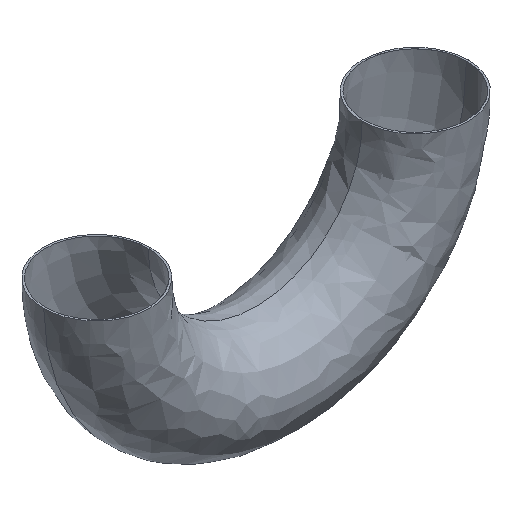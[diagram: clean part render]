
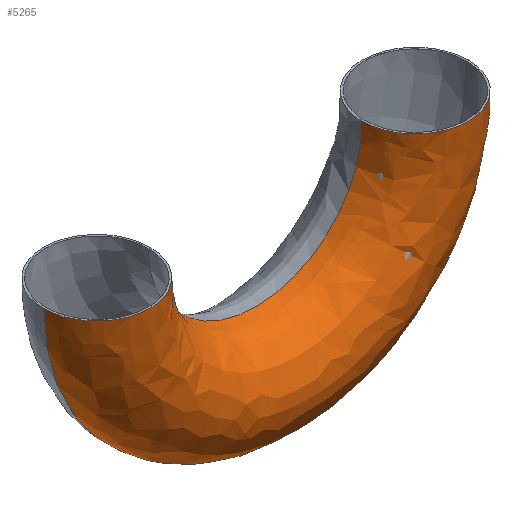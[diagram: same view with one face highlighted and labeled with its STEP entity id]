
A CAD part, isometric view. The second image highlights one B-rep face of the part: STEP entity #5265.
In plain terms, the highlighted free-form (B-spline) face has degree [3, 3] with [4, 4] control points.
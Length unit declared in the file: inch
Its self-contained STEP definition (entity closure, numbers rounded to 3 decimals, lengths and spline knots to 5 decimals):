
#173 = CARTESIAN_POINT ( 'NONE',  ( -3., 0., 0. ) ) ;
#216 = CIRCLE ( 'NONE', #926, 3. ) ;
#369 = DIRECTION ( 'NONE',  ( 0., 0., -1. ) ) ;
#712 = AXIS2_PLACEMENT_3D ( 'NONE', #5667, #760, #6483 ) ;
#760 = DIRECTION ( 'NONE',  ( 0., 0., 1. ) ) ;
#926 = AXIS2_PLACEMENT_3D ( 'NONE', #5272, #369, #6086 ) ;
#988 = CARTESIAN_POINT ( 'NONE',  ( -14.83816, -6., -12.1604 ) ) ;
#1280 = AXIS2_PLACEMENT_3D ( 'NONE', #3084, #8795, #3913 ) ;
#1608 = AXIS2_PLACEMENT_3D ( 'NONE', #3880, #9577, #4706 ) ;
#1815 = CARTESIAN_POINT ( 'NONE',  ( -3., -6., 0. ) ) ;
#1850 = CARTESIAN_POINT ( 'NONE',  ( -14.99928, 0., -0.16112 ) ) ;
#2643 = CARTESIAN_POINT ( 'NONE',  ( -20.83816, -6., -24.1604 ) ) ;
#3084 = CARTESIAN_POINT ( 'NONE',  ( -8.99964, 0., -0.08056 ) ) ;
#3467 = CARTESIAN_POINT ( 'NONE',  ( 3., -6., 0. ) ) ;
#3880 = CARTESIAN_POINT ( 'NONE',  ( -8.99964, 0., -0.08056 ) ) ;
#3913 = DIRECTION ( 'NONE',  ( -1., 0., -0.007 ) ) ;
#4015 = EDGE_CURVE ( 'NONE', #7335, #4548, #7872, .T. ) ;
#4029 = CARTESIAN_POINT ( 'NONE',  ( -14.99928, 0., -0.16112 ) ) ;
#4105 = VERTEX_POINT ( 'NONE', #9801 ) ;
#4235 = EDGE_CURVE ( 'NONE', #4105, #8543, #8755, .T. ) ;
#4298 = CARTESIAN_POINT ( 'NONE',  ( -20.83816, 0., -24.1604 ) ) ;
#4384 = EDGE_CURVE ( 'NONE', #7335, #4105, #216, .T. ) ;
#4454 = EDGE_CURVE ( 'NONE', #4548, #8543, #8875, .T. ) ;
#4548 = VERTEX_POINT ( 'NONE', #10539 ) ;
#4706 = DIRECTION ( 'NONE',  ( -1., 0., -0.013 ) ) ;
#4732 = ORIENTED_EDGE ( 'NONE', *, *, #4454, .F. ) ;
#5077 = CARTESIAN_POINT ( 'NONE',  ( -2.83888, 0., -11.99928 ) ) ;
#5114 = CARTESIAN_POINT ( 'NONE',  ( 3., 0., 0. ) ) ;
#5265 = ADVANCED_FACE ( 'NONE', ( #9407 ), #7614, .T. ) ;
#5272 = CARTESIAN_POINT ( 'NONE',  ( -17.99928, 0., -0.16112 ) ) ;
#5667 = CARTESIAN_POINT ( 'NONE',  ( 0., 0., 0. ) ) ;
#5760 = ORIENTED_EDGE ( 'NONE', *, *, #4015, .F. ) ;
#5797 = ORIENTED_EDGE ( 'NONE', *, *, #4235, .T. ) ;
#5895 = CARTESIAN_POINT ( 'NONE',  ( -14.99928, -6., -0.16112 ) ) ;
#6086 = DIRECTION ( 'NONE',  ( -1., 0., 0. ) ) ;
#6483 = DIRECTION ( 'NONE',  ( 1., 0., 0. ) ) ;
#6711 = CARTESIAN_POINT ( 'NONE',  ( -2.83888, -6., -11.99928 ) ) ;
#7335 = VERTEX_POINT ( 'NONE', #1850 ) ;
#7526 = CARTESIAN_POINT ( 'NONE',  ( -20.99928, -6., -0.16112 ) ) ;
#7605 = ORIENTED_EDGE ( 'NONE', *, *, #4384, .T. ) ;
#7614 =( BOUNDED_SURFACE ( )  B_SPLINE_SURFACE ( 3, 3, ( 
 ( #4029, #9949, #5077, #173 ),
 ( #5895, #988, #6711, #1815 ),
 ( #7526, #2643, #8358, #3467 ),
 ( #9170, #4298, #9986, #5114 ) ),
 .UNSPECIFIED., .F., .F., .T. ) 
 B_SPLINE_SURFACE_WITH_KNOTS ( ( 4, 4 ),
 ( 4, 4 ),
 ( 0., 1. ),
 ( 0., 1. ),
 .UNSPECIFIED. ) 
 GEOMETRIC_REPRESENTATION_ITEM ( )  RATIONAL_B_SPLINE_SURFACE ( (
 ( 1., 0.333, 0.333, 1.),
 ( 0.333, 0.111, 0.111, 0.333),
 ( 0.333, 0.111, 0.111, 0.333),
 ( 1., 0.333, 0.333, 1.) ) ) 
 REPRESENTATION_ITEM ( '' )  SURFACE ( )  );
#7717 = EDGE_LOOP ( 'NONE', ( #5760, #7605, #5797, #4732 ) ) ;
#7872 = CIRCLE ( 'NONE', #1608, 6.00018 ) ;
#8358 = CARTESIAN_POINT ( 'NONE',  ( 3.16112, -6., -23.99928 ) ) ;
#8543 = VERTEX_POINT ( 'NONE', #9175 ) ;
#8755 = CIRCLE ( 'NONE', #1280, 11.99991 ) ;
#8795 = DIRECTION ( 'NONE',  ( 0., -1., 0. ) ) ;
#8875 = CIRCLE ( 'NONE', #712, 3. ) ;
#9170 = CARTESIAN_POINT ( 'NONE',  ( -20.99928, 0., -0.16112 ) ) ;
#9175 = CARTESIAN_POINT ( 'NONE',  ( 3., 0., 0. ) ) ;
#9407 = FACE_OUTER_BOUND ( 'NONE', #7717, .T. ) ;
#9577 = DIRECTION ( 'NONE',  ( 0., -1., 0. ) ) ;
#9801 = CARTESIAN_POINT ( 'NONE',  ( -20.99928, 0., -0.16112 ) ) ;
#9949 = CARTESIAN_POINT ( 'NONE',  ( -14.83816, 0., -12.1604 ) ) ;
#9986 = CARTESIAN_POINT ( 'NONE',  ( 3.16112, 0., -23.99928 ) ) ;
#10539 = CARTESIAN_POINT ( 'NONE',  ( -3., 0., 0. ) ) ;
